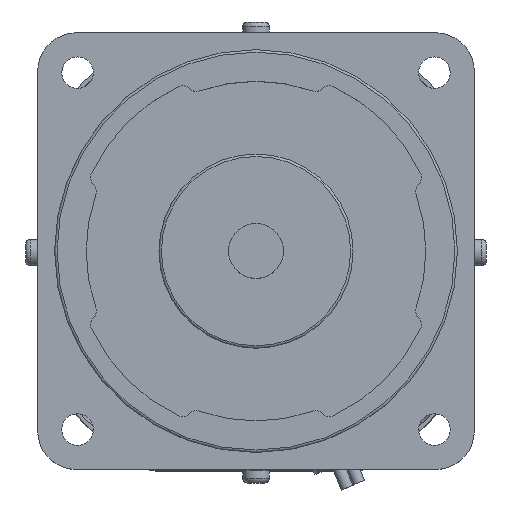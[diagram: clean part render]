
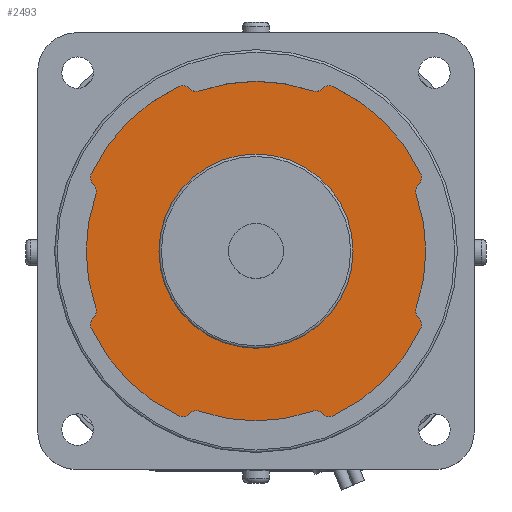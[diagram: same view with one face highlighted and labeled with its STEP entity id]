
A CAD part, top view. The second image highlights one B-rep face of the part: STEP entity #2493.
In plain terms, the highlighted planar face has unit normal (0, 0, 1).
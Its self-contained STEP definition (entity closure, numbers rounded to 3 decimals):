
#1174=CARTESIAN_POINT('',(20.0,0.,212.0));
#1175=VERTEX_POINT('',#1174);
#1176=CARTESIAN_POINT('',(0.,0.,212.0));
#1177=DIRECTION('',(0.0,0.0,-1.0));
#1178=DIRECTION('',(-1.0,0.0,0.0));
#1179=AXIS2_PLACEMENT_3D('',#1176,#1177,#1178);
#1180=CIRCLE('',#1179,20.0);
#1181=EDGE_CURVE('',#1175,#1175,#1180,.T.);
#1204=CARTESIAN_POINT('',(-13.722,-33.501,212.0));
#1205=VERTEX_POINT('',#1204);
#1221=CARTESIAN_POINT('',(-11.626,-33.013,212.0));
#1222=VERTEX_POINT('',#1221);
#1229=CARTESIAN_POINT('',(-12.291,-34.899,212.0));
#1230=DIRECTION('',(0.0,0.0,-1.0));
#1231=DIRECTION('',(-0.408,0.913,0.0));
#1232=AXIS2_PLACEMENT_3D('',#1229,#1230,#1231);
#1233=CIRCLE('',#1232,2.0);
#1234=EDGE_CURVE('',#1222,#1205,#1233,.F.);
#1254=CARTESIAN_POINT('',(11.626,-33.013,212.0));
#1255=VERTEX_POINT('',#1254);
#1262=CARTESIAN_POINT('',(0.,0.,212.0));
#1263=DIRECTION('',(0.,0.,1.0));
#1264=DIRECTION('',(-0.383,-0.924,0.));
#1265=AXIS2_PLACEMENT_3D('',#1262,#1263,#1264);
#1266=CIRCLE('',#1265,35.0);
#1267=EDGE_CURVE('',#1222,#1255,#1266,.T.);
#1277=CARTESIAN_POINT('',(13.722,-33.501,212.0));
#1278=VERTEX_POINT('',#1277);
#1287=CARTESIAN_POINT('',(12.291,-34.899,212.0));
#1288=DIRECTION('',(0.0,0.0,-1.0));
#1289=DIRECTION('',(0.408,0.913,0.0));
#1290=AXIS2_PLACEMENT_3D('',#1287,#1288,#1289);
#1291=CIRCLE('',#1290,2.0);
#1292=EDGE_CURVE('',#1278,#1255,#1291,.F.);
#1319=CARTESIAN_POINT('',(16.006,-33.913,212.0));
#1320=VERTEX_POINT('',#1319);
#1327=CARTESIAN_POINT('',(15.152,-32.104,212.0));
#1328=DIRECTION('',(0.0,0.0,1.0));
#1329=DIRECTION('',(0.715,0.699,0.0));
#1330=AXIS2_PLACEMENT_3D('',#1327,#1328,#1329);
#1331=CIRCLE('',#1330,2.);
#1332=EDGE_CURVE('',#1278,#1320,#1331,.T.);
#1343=CARTESIAN_POINT('',(33.913,-16.006,212.0));
#1344=VERTEX_POINT('',#1343);
#1353=CARTESIAN_POINT('',(0.,0.,212.0));
#1354=DIRECTION('',(0.,0.,1.0));
#1355=DIRECTION('',(0.383,-0.924,0.));
#1356=AXIS2_PLACEMENT_3D('',#1353,#1354,#1355);
#1357=CIRCLE('',#1356,37.5);
#1358=EDGE_CURVE('',#1320,#1344,#1357,.T.);
#1385=CARTESIAN_POINT('',(33.501,-13.722,212.0));
#1386=VERTEX_POINT('',#1385);
#1393=CARTESIAN_POINT('',(32.104,-15.152,212.0));
#1394=DIRECTION('',(0.0,0.0,1.0));
#1395=DIRECTION('',(-0.904,0.427,0.0));
#1396=AXIS2_PLACEMENT_3D('',#1393,#1394,#1395);
#1397=CIRCLE('',#1396,2.);
#1398=EDGE_CURVE('',#1344,#1386,#1397,.T.);
#1419=CARTESIAN_POINT('',(33.013,-11.626,212.0));
#1420=VERTEX_POINT('',#1419);
#1427=CARTESIAN_POINT('',(34.899,-12.291,212.0));
#1428=DIRECTION('',(0.0,0.0,-1.0));
#1429=DIRECTION('',(-0.913,-0.408,0.0));
#1430=AXIS2_PLACEMENT_3D('',#1427,#1428,#1429);
#1431=CIRCLE('',#1430,2.0);
#1432=EDGE_CURVE('',#1420,#1386,#1431,.F.);
#1442=CARTESIAN_POINT('',(33.013,11.626,212.0));
#1443=VERTEX_POINT('',#1442);
#1452=CARTESIAN_POINT('',(0.,0.,212.0));
#1453=DIRECTION('',(0.,0.,1.0));
#1454=DIRECTION('',(0.924,-0.383,0.));
#1455=AXIS2_PLACEMENT_3D('',#1452,#1453,#1454);
#1456=CIRCLE('',#1455,35.);
#1457=EDGE_CURVE('',#1420,#1443,#1456,.T.);
#1475=CARTESIAN_POINT('',(33.501,13.722,212.0));
#1476=VERTEX_POINT('',#1475);
#1485=CARTESIAN_POINT('',(34.899,12.291,212.0));
#1486=DIRECTION('',(0.0,0.0,-1.0));
#1487=DIRECTION('',(-0.913,0.408,0.0));
#1488=AXIS2_PLACEMENT_3D('',#1485,#1486,#1487);
#1489=CIRCLE('',#1488,2.0);
#1490=EDGE_CURVE('',#1476,#1443,#1489,.F.);
#1517=CARTESIAN_POINT('',(33.913,16.006,212.0));
#1518=VERTEX_POINT('',#1517);
#1525=CARTESIAN_POINT('',(32.104,15.152,212.0));
#1526=DIRECTION('',(0.0,0.0,1.0));
#1527=DIRECTION('',(-0.699,0.715,0.0));
#1528=AXIS2_PLACEMENT_3D('',#1525,#1526,#1527);
#1529=CIRCLE('',#1528,2.);
#1530=EDGE_CURVE('',#1476,#1518,#1529,.T.);
#1541=CARTESIAN_POINT('',(16.006,33.913,212.0));
#1542=VERTEX_POINT('',#1541);
#1551=CARTESIAN_POINT('',(0.,0.,212.0));
#1552=DIRECTION('',(0.,0.,1.0));
#1553=DIRECTION('',(0.924,0.383,0.));
#1554=AXIS2_PLACEMENT_3D('',#1551,#1552,#1553);
#1555=CIRCLE('',#1554,37.5);
#1556=EDGE_CURVE('',#1518,#1542,#1555,.T.);
#1583=CARTESIAN_POINT('',(13.722,33.501,212.0));
#1584=VERTEX_POINT('',#1583);
#1591=CARTESIAN_POINT('',(15.152,32.104,212.0));
#1592=DIRECTION('',(0.0,0.0,1.0));
#1593=DIRECTION('',(-0.427,-0.904,0.0));
#1594=AXIS2_PLACEMENT_3D('',#1591,#1592,#1593);
#1595=CIRCLE('',#1594,2.);
#1596=EDGE_CURVE('',#1542,#1584,#1595,.T.);
#1617=CARTESIAN_POINT('',(11.626,33.013,212.0));
#1618=VERTEX_POINT('',#1617);
#1625=CARTESIAN_POINT('',(12.291,34.899,212.0));
#1626=DIRECTION('',(0.0,0.0,-1.0));
#1627=DIRECTION('',(0.408,-0.913,0.0));
#1628=AXIS2_PLACEMENT_3D('',#1625,#1626,#1627);
#1629=CIRCLE('',#1628,2.0);
#1630=EDGE_CURVE('',#1618,#1584,#1629,.F.);
#1640=CARTESIAN_POINT('',(-11.626,33.013,212.0));
#1641=VERTEX_POINT('',#1640);
#1650=CARTESIAN_POINT('',(0.,0.,212.0));
#1651=DIRECTION('',(0.,0.,1.0));
#1652=DIRECTION('',(0.383,0.924,0.));
#1653=AXIS2_PLACEMENT_3D('',#1650,#1651,#1652);
#1654=CIRCLE('',#1653,35.0);
#1655=EDGE_CURVE('',#1618,#1641,#1654,.T.);
#1673=CARTESIAN_POINT('',(-13.722,33.501,212.0));
#1674=VERTEX_POINT('',#1673);
#1683=CARTESIAN_POINT('',(-12.291,34.899,212.0));
#1684=DIRECTION('',(0.0,0.0,-1.0));
#1685=DIRECTION('',(-0.408,-0.913,0.0));
#1686=AXIS2_PLACEMENT_3D('',#1683,#1684,#1685);
#1687=CIRCLE('',#1686,2.0);
#1688=EDGE_CURVE('',#1674,#1641,#1687,.F.);
#1715=CARTESIAN_POINT('',(-16.006,33.913,212.0));
#1716=VERTEX_POINT('',#1715);
#1723=CARTESIAN_POINT('',(-15.152,32.104,212.0));
#1724=DIRECTION('',(0.0,0.0,1.0));
#1725=DIRECTION('',(-0.715,-0.699,0.0));
#1726=AXIS2_PLACEMENT_3D('',#1723,#1724,#1725);
#1727=CIRCLE('',#1726,2.);
#1728=EDGE_CURVE('',#1674,#1716,#1727,.T.);
#1749=CARTESIAN_POINT('',(-33.913,16.006,212.0));
#1750=VERTEX_POINT('',#1749);
#1757=CARTESIAN_POINT('',(0.,0.,212.0));
#1758=DIRECTION('',(0.,0.,1.0));
#1759=DIRECTION('',(-0.383,0.924,0.));
#1760=AXIS2_PLACEMENT_3D('',#1757,#1758,#1759);
#1761=CIRCLE('',#1760,37.5);
#1762=EDGE_CURVE('',#1716,#1750,#1761,.T.);
#1781=CARTESIAN_POINT('',(-33.501,13.722,212.0));
#1782=VERTEX_POINT('',#1781);
#1789=CARTESIAN_POINT('',(-32.104,15.152,212.0));
#1790=DIRECTION('',(0.0,0.0,1.0));
#1791=DIRECTION('',(0.904,-0.427,0.0));
#1792=AXIS2_PLACEMENT_3D('',#1789,#1790,#1791);
#1793=CIRCLE('',#1792,2.);
#1794=EDGE_CURVE('',#1750,#1782,#1793,.T.);
#1815=CARTESIAN_POINT('',(-33.013,11.626,212.0));
#1816=VERTEX_POINT('',#1815);
#1823=CARTESIAN_POINT('',(-34.899,12.291,212.0));
#1824=DIRECTION('',(0.0,0.0,-1.0));
#1825=DIRECTION('',(0.913,0.408,0.0));
#1826=AXIS2_PLACEMENT_3D('',#1823,#1824,#1825);
#1827=CIRCLE('',#1826,2.0);
#1828=EDGE_CURVE('',#1816,#1782,#1827,.F.);
#1838=CARTESIAN_POINT('',(-33.013,-11.626,212.0));
#1839=VERTEX_POINT('',#1838);
#1848=CARTESIAN_POINT('',(0.,0.,212.0));
#1849=DIRECTION('',(0.,0.,1.0));
#1850=DIRECTION('',(-0.924,0.383,0.));
#1851=AXIS2_PLACEMENT_3D('',#1848,#1849,#1850);
#1852=CIRCLE('',#1851,35.0);
#1853=EDGE_CURVE('',#1816,#1839,#1852,.T.);
#1871=CARTESIAN_POINT('',(-33.501,-13.722,212.0));
#1872=VERTEX_POINT('',#1871);
#1881=CARTESIAN_POINT('',(-34.899,-12.291,212.0));
#1882=DIRECTION('',(0.0,0.0,-1.0));
#1883=DIRECTION('',(0.913,-0.408,0.0));
#1884=AXIS2_PLACEMENT_3D('',#1881,#1882,#1883);
#1885=CIRCLE('',#1884,2.0);
#1886=EDGE_CURVE('',#1872,#1839,#1885,.F.);
#1913=CARTESIAN_POINT('',(-33.913,-16.006,212.0));
#1914=VERTEX_POINT('',#1913);
#1921=CARTESIAN_POINT('',(-32.104,-15.152,212.0));
#1922=DIRECTION('',(0.0,0.0,1.0));
#1923=DIRECTION('',(0.699,-0.715,0.0));
#1924=AXIS2_PLACEMENT_3D('',#1921,#1922,#1923);
#1925=CIRCLE('',#1924,2.);
#1926=EDGE_CURVE('',#1872,#1914,#1925,.T.);
#1937=CARTESIAN_POINT('',(-16.006,-33.913,212.0));
#1938=VERTEX_POINT('',#1937);
#1947=CARTESIAN_POINT('',(0.,0.,212.0));
#1948=DIRECTION('',(0.,0.,1.0));
#1949=DIRECTION('',(-0.924,-0.383,0.));
#1950=AXIS2_PLACEMENT_3D('',#1947,#1948,#1949);
#1951=CIRCLE('',#1950,37.5);
#1952=EDGE_CURVE('',#1914,#1938,#1951,.T.);
#1978=CARTESIAN_POINT('',(-15.152,-32.104,212.0));
#1979=DIRECTION('',(0.0,0.0,1.0));
#1980=DIRECTION('',(0.427,0.904,0.0));
#1981=AXIS2_PLACEMENT_3D('',#1978,#1979,#1980);
#1982=CIRCLE('',#1981,2.);
#1983=EDGE_CURVE('',#1938,#1205,#1982,.T.);
#2459=CARTESIAN_POINT('',(0.,0.,212.0));
#2460=DIRECTION('',(0.0,0.0,1.0));
#2461=DIRECTION('',(1.0,0.0,0.0));
#2462=AXIS2_PLACEMENT_3D('',#2459,#2460,#2461);
#2463=PLANE('',#2462);
#2464=ORIENTED_EDGE('',*,*,#1983,.T.);
#2465=ORIENTED_EDGE('',*,*,#1234,.F.);
#2466=ORIENTED_EDGE('',*,*,#1267,.T.);
#2467=ORIENTED_EDGE('',*,*,#1292,.F.);
#2468=ORIENTED_EDGE('',*,*,#1332,.T.);
#2469=ORIENTED_EDGE('',*,*,#1358,.T.);
#2470=ORIENTED_EDGE('',*,*,#1398,.T.);
#2471=ORIENTED_EDGE('',*,*,#1432,.F.);
#2472=ORIENTED_EDGE('',*,*,#1457,.T.);
#2473=ORIENTED_EDGE('',*,*,#1490,.F.);
#2474=ORIENTED_EDGE('',*,*,#1530,.T.);
#2475=ORIENTED_EDGE('',*,*,#1556,.T.);
#2476=ORIENTED_EDGE('',*,*,#1596,.T.);
#2477=ORIENTED_EDGE('',*,*,#1630,.F.);
#2478=ORIENTED_EDGE('',*,*,#1655,.T.);
#2479=ORIENTED_EDGE('',*,*,#1688,.F.);
#2480=ORIENTED_EDGE('',*,*,#1728,.T.);
#2481=ORIENTED_EDGE('',*,*,#1762,.T.);
#2482=ORIENTED_EDGE('',*,*,#1794,.T.);
#2483=ORIENTED_EDGE('',*,*,#1828,.F.);
#2484=ORIENTED_EDGE('',*,*,#1853,.T.);
#2485=ORIENTED_EDGE('',*,*,#1886,.F.);
#2486=ORIENTED_EDGE('',*,*,#1926,.T.);
#2487=ORIENTED_EDGE('',*,*,#1952,.T.);
#2488=EDGE_LOOP('',(#2464,#2465,#2466,#2467,#2468,#2469,#2470,#2471,#2472,#2473,#2474,#2475,#2476,#2477,#2478,#2479,#2480,#2481,#2482,#2483,#2484,#2485,#2486,#2487));
#2489=FACE_OUTER_BOUND('',#2488,.T.);
#2490=ORIENTED_EDGE('',*,*,#1181,.T.);
#2491=EDGE_LOOP('',(#2490));
#2492=FACE_BOUND('',#2491,.T.);
#2493=ADVANCED_FACE('',(#2489,#2492),#2463,.T.);
